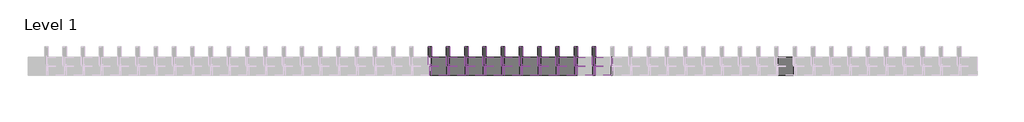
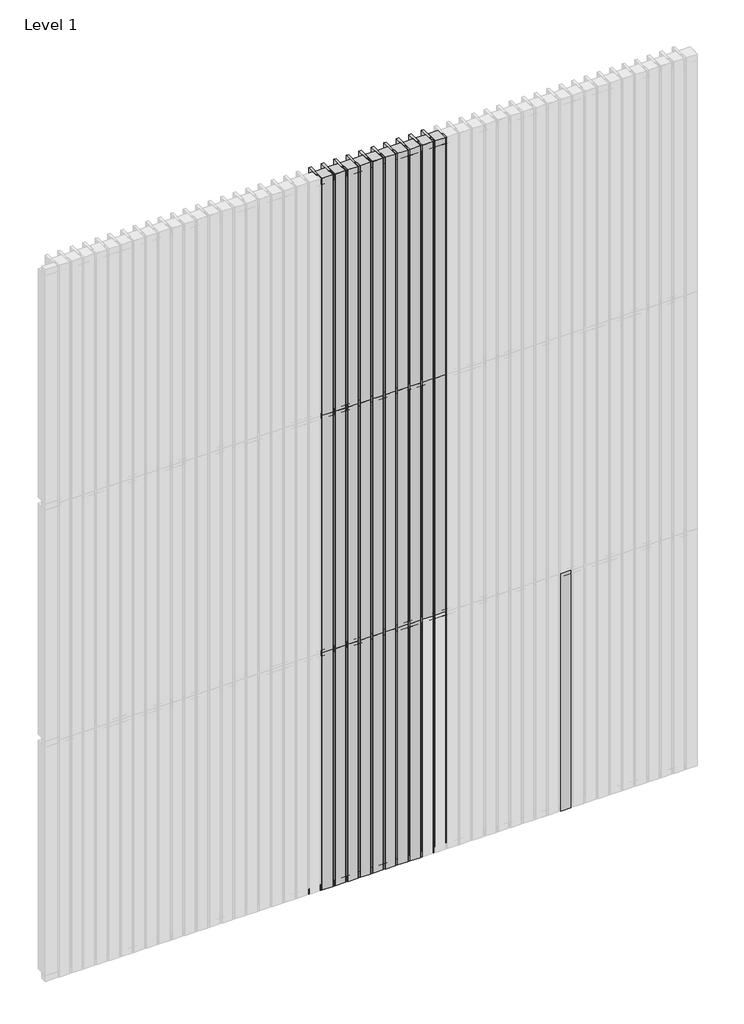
# One storey, part 4 of 6: 70 members, 59 plates.
"""IFC4 building model written with IfcOpenShell, lengths in millimetres."""

from ifc_helpers import new_model, si_unit, origin, place, context, project, spatial, transform, mapped, element, save
from components import rectangular_mullion_cddbc660, rectangular_mullion_a3e25429, rectangular_mullion_ae434dd9, rectangular_mullion_30cdfca6, empty_system_panel_empty_5411477d, empty_system_panel_empty_c50988b4, empty_system_panel_empty_3767e820

model = new_model("IFC4")

# Units and contexts
model_context = context("Model", 3, world=origin())
ifc_project = project(units=[si_unit("LENGTHUNIT", "METRE", prefix="MILLI")], contexts=[model_context])

# Site, building, storey
site = spatial("IfcSite", under=ifc_project)
building = spatial("IfcBuilding", under=site)
storey = spatial("IfcBuildingStorey", under=building, Name="Level 1", Elevation=0.0)

# Members
placement = place(None, origin())
rectangular_mullion_shape = rectangular_mullion_cddbc660(model_context)
element("IfcMember", 1, ObjectType="Rectangular Mullion : RSen_21_CWM_support profile 50x50 - left_gen_duco projects", at=placement, inside=storey, context=model_context, shape_type="MappedRepresentation", body=[
    mapped(rectangular_mullion_shape, transform((3900.0, 3000.0, 6000.0), x_axis=(0.0, 0.0, 1.0), y_axis=(0.0, 1.0, 0.0), z_axis=(-1.0, 0.0, 0.0))),
])
element("IfcMember", 2, ObjectType="Rectangular Mullion : RSen_21_CWM_support profile 50x50 - left_gen_duco projects", at=placement, inside=storey, context=model_context, shape_type="MappedRepresentation", body=[
    mapped(rectangular_mullion_shape, transform((3800.0, 3000.0, 6000.0), x_axis=(0.0, 0.0, 1.0), y_axis=(0.0, 1.0, 0.0), z_axis=(-1.0, 0.0, 0.0))),
])
element("IfcMember", 3, ObjectType="Rectangular Mullion : RSen_21_CWM_support profile 50x50 - left_gen_duco projects", at=placement, inside=storey, context=model_context, shape_type="MappedRepresentation", body=[
    mapped(rectangular_mullion_shape, transform((3700.0, 3000.0, 6000.0), x_axis=(0.0, 0.0, 1.0), y_axis=(0.0, 1.0, 0.0), z_axis=(-1.0, 0.0, 0.0))),
])
element("IfcMember", 4, ObjectType="Rectangular Mullion : RSen_21_CWM_support profile 50x50 - left_gen_duco projects", at=placement, inside=storey, context=model_context, shape_type="MappedRepresentation", body=[
    mapped(rectangular_mullion_shape, transform((3600.0, 3000.0, 6000.0), x_axis=(0.0, 0.0, 1.0), y_axis=(0.0, 1.0, 0.0), z_axis=(-1.0, 0.0, 0.0))),
])
element("IfcMember", 5, ObjectType="Rectangular Mullion : RSen_21_CWM_support profile 50x50 - left_gen_duco projects", at=placement, inside=storey, context=model_context, shape_type="MappedRepresentation", body=[
    mapped(rectangular_mullion_shape, transform((3500.0, 3000.0, 6000.0), x_axis=(0.0, 0.0, 1.0), y_axis=(0.0, 1.0, 0.0), z_axis=(-1.0, 0.0, 0.0))),
])
element("IfcMember", 6, ObjectType="Rectangular Mullion : RSen_21_CWM_support profile 50x50 - left_gen_duco projects", at=placement, inside=storey, context=model_context, shape_type="MappedRepresentation", body=[
    mapped(rectangular_mullion_shape, transform((3400.0, 3000.0, 6000.0), x_axis=(0.0, 0.0, 1.0), y_axis=(0.0, 1.0, 0.0), z_axis=(-1.0, 0.0, 0.0))),
])
element("IfcMember", 7, ObjectType="Rectangular Mullion : RSen_21_CWM_support profile 50x50 - left_gen_duco projects", at=placement, inside=storey, context=model_context, shape_type="MappedRepresentation", body=[
    mapped(rectangular_mullion_shape, transform((3300.0, 3000.0, 6000.0), x_axis=(0.0, 0.0, 1.0), y_axis=(0.0, 1.0, 0.0), z_axis=(-1.0, 0.0, 0.0))),
])
element("IfcMember", 8, ObjectType="Rectangular Mullion : RSen_21_CWM_support profile 50x50 - left_gen_duco projects", at=placement, inside=storey, context=model_context, shape_type="MappedRepresentation", body=[
    mapped(rectangular_mullion_shape, transform((3200.0, 3000.0, 6000.0), x_axis=(0.0, 0.0, 1.0), y_axis=(0.0, 1.0, 0.0), z_axis=(-1.0, 0.0, 0.0))),
])
element("IfcMember", 9, ObjectType="Rectangular Mullion : RSen_21_CWM_support profile 50x50 - left_gen_duco projects", at=placement, inside=storey, context=model_context, shape_type="MappedRepresentation", body=[
    mapped(rectangular_mullion_shape, transform((3100.0, 3000.0, 6000.0), x_axis=(0.0, 0.0, 1.0), y_axis=(0.0, 1.0, 0.0), z_axis=(-1.0, 0.0, 0.0))),
])
element("IfcMember", 10, ObjectType="Rectangular Mullion : RSen_21_CWM_support profile 50x50 - left_gen_duco projects", at=placement, inside=storey, context=model_context, shape_type="MappedRepresentation", body=[
    mapped(rectangular_mullion_shape, transform((3000.0, 3000.0, 6000.0), x_axis=(0.0, 0.0, 1.0), y_axis=(0.0, 1.0, 0.0), z_axis=(-1.0, 0.0, 0.0))),
])
rectangular_mullion_2_shape = rectangular_mullion_a3e25429(model_context)
element("IfcMember", 11, ObjectType="Rectangular Mullion : RSen_21_CWM_support profile 50x50 - right_gen_duco projects", at=placement, inside=storey, context=model_context, shape_type="MappedRepresentation", body=[
    mapped(rectangular_mullion_2_shape, transform((3900.0, 3000.0, 0.0), x_axis=(0.0, 0.0, -1.0), y_axis=(0.0, 1.0, 0.0), z_axis=(1.0, 0.0, 0.0))),
])
element("IfcMember", 12, ObjectType="Rectangular Mullion : RSen_21_CWM_support profile 50x50 - right_gen_duco projects", at=placement, inside=storey, context=model_context, shape_type="MappedRepresentation", body=[
    mapped(rectangular_mullion_2_shape, transform((3800.0, 3000.0, 0.0), x_axis=(0.0, 0.0, -1.0), y_axis=(0.0, 1.0, 0.0), z_axis=(1.0, 0.0, 0.0))),
])
element("IfcMember", 13, ObjectType="Rectangular Mullion : RSen_21_CWM_support profile 50x50 - right_gen_duco projects", at=placement, inside=storey, context=model_context, shape_type="MappedRepresentation", body=[
    mapped(rectangular_mullion_2_shape, transform((3700.0, 3000.0, 0.0), x_axis=(0.0, 0.0, -1.0), y_axis=(0.0, 1.0, 0.0), z_axis=(1.0, 0.0, 0.0))),
])
element("IfcMember", 14, ObjectType="Rectangular Mullion : RSen_21_CWM_support profile 50x50 - right_gen_duco projects", at=placement, inside=storey, context=model_context, shape_type="MappedRepresentation", body=[
    mapped(rectangular_mullion_2_shape, transform((3600.0, 3000.0, 0.0), x_axis=(0.0, 0.0, -1.0), y_axis=(0.0, 1.0, 0.0), z_axis=(1.0, 0.0, 0.0))),
])
element("IfcMember", 15, ObjectType="Rectangular Mullion : RSen_21_CWM_support profile 50x50 - right_gen_duco projects", at=placement, inside=storey, context=model_context, shape_type="MappedRepresentation", body=[
    mapped(rectangular_mullion_2_shape, transform((3500.0, 3000.0, 0.0), x_axis=(0.0, 0.0, -1.0), y_axis=(0.0, 1.0, 0.0), z_axis=(1.0, 0.0, 0.0))),
])
element("IfcMember", 16, ObjectType="Rectangular Mullion : RSen_21_CWM_support profile 50x50 - right_gen_duco projects", at=placement, inside=storey, context=model_context, shape_type="MappedRepresentation", body=[
    mapped(rectangular_mullion_2_shape, transform((3400.0, 3000.0, 0.0), x_axis=(0.0, 0.0, -1.0), y_axis=(0.0, 1.0, 0.0), z_axis=(1.0, 0.0, 0.0))),
])
element("IfcMember", 17, ObjectType="Rectangular Mullion : RSen_21_CWM_support profile 50x50 - right_gen_duco projects", at=placement, inside=storey, context=model_context, shape_type="MappedRepresentation", body=[
    mapped(rectangular_mullion_2_shape, transform((3300.0, 3000.0, 0.0), x_axis=(0.0, 0.0, -1.0), y_axis=(0.0, 1.0, 0.0), z_axis=(1.0, 0.0, 0.0))),
])
element("IfcMember", 18, ObjectType="Rectangular Mullion : RSen_21_CWM_support profile 50x50 - right_gen_duco projects", at=placement, inside=storey, context=model_context, shape_type="MappedRepresentation", body=[
    mapped(rectangular_mullion_2_shape, transform((3200.0, 3000.0, 0.0), x_axis=(0.0, 0.0, -1.0), y_axis=(0.0, 1.0, 0.0), z_axis=(1.0, 0.0, 0.0))),
])
element("IfcMember", 19, ObjectType="Rectangular Mullion : RSen_21_CWM_support profile 50x50 - right_gen_duco projects", at=placement, inside=storey, context=model_context, shape_type="MappedRepresentation", body=[
    mapped(rectangular_mullion_2_shape, transform((3100.0, 3000.0, 0.0), x_axis=(0.0, 0.0, -1.0), y_axis=(0.0, 1.0, 0.0), z_axis=(1.0, 0.0, 0.0))),
])
element("IfcMember", 20, ObjectType="Rectangular Mullion : RSen_21_CWM_support profile 50x50 - right_gen_duco projects", at=placement, inside=storey, context=model_context, shape_type="MappedRepresentation", body=[
    mapped(rectangular_mullion_2_shape, transform((3000.0, 3000.0, 0.0), x_axis=(0.0, 0.0, -1.0), y_axis=(0.0, 1.0, 0.0), z_axis=(1.0, 0.0, 0.0))),
])
rectangular_mullion_3_shape = rectangular_mullion_ae434dd9(model_context)
element("IfcMember", 21, ObjectType="Rectangular Mullion : RSen_21_CWM_support profile 50x50_gen_duco projects", at=placement, inside=storey, context=model_context, shape_type="MappedRepresentation", body=[
    mapped(rectangular_mullion_3_shape, transform((3900.0, 3000.0, 2000.0), x_axis=(0.0, 0.0, 1.0), y_axis=(0.0, 1.0, 0.0), z_axis=(-1.0, 0.0, 0.0))),
])
element("IfcMember", 22, ObjectType="Rectangular Mullion : RSen_21_CWM_support profile 50x50_gen_duco projects", at=placement, inside=storey, context=model_context, shape_type="MappedRepresentation", body=[
    mapped(rectangular_mullion_3_shape, transform((3800.0, 3000.0, 2000.0), x_axis=(0.0, 0.0, 1.0), y_axis=(0.0, 1.0, 0.0), z_axis=(-1.0, 0.0, 0.0))),
])
element("IfcMember", 23, ObjectType="Rectangular Mullion : RSen_21_CWM_support profile 50x50_gen_duco projects", at=placement, inside=storey, context=model_context, shape_type="MappedRepresentation", body=[
    mapped(rectangular_mullion_3_shape, transform((3700.0, 3000.0, 2000.0), x_axis=(0.0, 0.0, 1.0), y_axis=(0.0, 1.0, 0.0), z_axis=(-1.0, 0.0, 0.0))),
])
element("IfcMember", 24, ObjectType="Rectangular Mullion : RSen_21_CWM_support profile 50x50_gen_duco projects", at=placement, inside=storey, context=model_context, shape_type="MappedRepresentation", body=[
    mapped(rectangular_mullion_3_shape, transform((3600.0, 3000.0, 2000.0), x_axis=(0.0, 0.0, 1.0), y_axis=(0.0, 1.0, 0.0), z_axis=(-1.0, 0.0, 0.0))),
])
element("IfcMember", 25, ObjectType="Rectangular Mullion : RSen_21_CWM_support profile 50x50_gen_duco projects", at=placement, inside=storey, context=model_context, shape_type="MappedRepresentation", body=[
    mapped(rectangular_mullion_3_shape, transform((3500.0, 3000.0, 2000.0), x_axis=(0.0, 0.0, 1.0), y_axis=(0.0, 1.0, 0.0), z_axis=(-1.0, 0.0, 0.0))),
])
element("IfcMember", 26, ObjectType="Rectangular Mullion : RSen_21_CWM_support profile 50x50_gen_duco projects", at=placement, inside=storey, context=model_context, shape_type="MappedRepresentation", body=[
    mapped(rectangular_mullion_3_shape, transform((3400.0, 3000.0, 2000.0), x_axis=(0.0, 0.0, 1.0), y_axis=(0.0, 1.0, 0.0), z_axis=(-1.0, 0.0, 0.0))),
])
element("IfcMember", 27, ObjectType="Rectangular Mullion : RSen_21_CWM_support profile 50x50_gen_duco projects", at=placement, inside=storey, context=model_context, shape_type="MappedRepresentation", body=[
    mapped(rectangular_mullion_3_shape, transform((3300.0, 3000.0, 2000.0), x_axis=(0.0, 0.0, 1.0), y_axis=(0.0, 1.0, 0.0), z_axis=(-1.0, 0.0, 0.0))),
])
element("IfcMember", 28, ObjectType="Rectangular Mullion : RSen_21_CWM_support profile 50x50_gen_duco projects", at=placement, inside=storey, context=model_context, shape_type="MappedRepresentation", body=[
    mapped(rectangular_mullion_3_shape, transform((3200.0, 3000.0, 2000.0), x_axis=(0.0, 0.0, 1.0), y_axis=(0.0, 1.0, 0.0), z_axis=(-1.0, 0.0, 0.0))),
])
element("IfcMember", 29, ObjectType="Rectangular Mullion : RSen_21_CWM_support profile 50x50_gen_duco projects", at=placement, inside=storey, context=model_context, shape_type="MappedRepresentation", body=[
    mapped(rectangular_mullion_3_shape, transform((3100.0, 3000.0, 2000.0), x_axis=(0.0, 0.0, 1.0), y_axis=(0.0, 1.0, 0.0), z_axis=(-1.0, 0.0, 0.0))),
])
element("IfcMember", 30, ObjectType="Rectangular Mullion : RSen_21_CWM_support profile 50x50_gen_duco projects", at=placement, inside=storey, context=model_context, shape_type="MappedRepresentation", body=[
    mapped(rectangular_mullion_3_shape, transform((3000.0, 3000.0, 2000.0), x_axis=(0.0, 0.0, 1.0), y_axis=(0.0, 1.0, 0.0), z_axis=(-1.0, 0.0, 0.0))),
])
element("IfcMember", 31, ObjectType="Rectangular Mullion : RSen_21_CWM_support profile 50x50_gen_duco projects", at=placement, inside=storey, context=model_context, shape_type="MappedRepresentation", body=[
    mapped(rectangular_mullion_3_shape, transform((3900.0, 3000.0, 4000.0), x_axis=(0.0, 0.0, 1.0), y_axis=(0.0, 1.0, 0.0), z_axis=(-1.0, 0.0, 0.0))),
])
element("IfcMember", 32, ObjectType="Rectangular Mullion : RSen_21_CWM_support profile 50x50_gen_duco projects", at=placement, inside=storey, context=model_context, shape_type="MappedRepresentation", body=[
    mapped(rectangular_mullion_3_shape, transform((3800.0, 3000.0, 4000.0), x_axis=(0.0, 0.0, 1.0), y_axis=(0.0, 1.0, 0.0), z_axis=(-1.0, 0.0, 0.0))),
])
element("IfcMember", 33, ObjectType="Rectangular Mullion : RSen_21_CWM_support profile 50x50_gen_duco projects", at=placement, inside=storey, context=model_context, shape_type="MappedRepresentation", body=[
    mapped(rectangular_mullion_3_shape, transform((3700.0, 3000.0, 4000.0), x_axis=(0.0, 0.0, 1.0), y_axis=(0.0, 1.0, 0.0), z_axis=(-1.0, 0.0, 0.0))),
])
element("IfcMember", 34, ObjectType="Rectangular Mullion : RSen_21_CWM_support profile 50x50_gen_duco projects", at=placement, inside=storey, context=model_context, shape_type="MappedRepresentation", body=[
    mapped(rectangular_mullion_3_shape, transform((3600.0, 3000.0, 4000.0), x_axis=(0.0, 0.0, 1.0), y_axis=(0.0, 1.0, 0.0), z_axis=(-1.0, 0.0, 0.0))),
])
element("IfcMember", 35, ObjectType="Rectangular Mullion : RSen_21_CWM_support profile 50x50_gen_duco projects", at=placement, inside=storey, context=model_context, shape_type="MappedRepresentation", body=[
    mapped(rectangular_mullion_3_shape, transform((3500.0, 3000.0, 4000.0), x_axis=(0.0, 0.0, 1.0), y_axis=(0.0, 1.0, 0.0), z_axis=(-1.0, 0.0, 0.0))),
])
element("IfcMember", 36, ObjectType="Rectangular Mullion : RSen_21_CWM_support profile 50x50_gen_duco projects", at=placement, inside=storey, context=model_context, shape_type="MappedRepresentation", body=[
    mapped(rectangular_mullion_3_shape, transform((3400.0, 3000.0, 4000.0), x_axis=(0.0, 0.0, 1.0), y_axis=(0.0, 1.0, 0.0), z_axis=(-1.0, 0.0, 0.0))),
])
element("IfcMember", 37, ObjectType="Rectangular Mullion : RSen_21_CWM_support profile 50x50_gen_duco projects", at=placement, inside=storey, context=model_context, shape_type="MappedRepresentation", body=[
    mapped(rectangular_mullion_3_shape, transform((3300.0, 3000.0, 4000.0), x_axis=(0.0, 0.0, 1.0), y_axis=(0.0, 1.0, 0.0), z_axis=(-1.0, 0.0, 0.0))),
])
element("IfcMember", 38, ObjectType="Rectangular Mullion : RSen_21_CWM_support profile 50x50_gen_duco projects", at=placement, inside=storey, context=model_context, shape_type="MappedRepresentation", body=[
    mapped(rectangular_mullion_3_shape, transform((3200.0, 3000.0, 4000.0), x_axis=(0.0, 0.0, 1.0), y_axis=(0.0, 1.0, 0.0), z_axis=(-1.0, 0.0, 0.0))),
])
element("IfcMember", 39, ObjectType="Rectangular Mullion : RSen_21_CWM_support profile 50x50_gen_duco projects", at=placement, inside=storey, context=model_context, shape_type="MappedRepresentation", body=[
    mapped(rectangular_mullion_3_shape, transform((3100.0, 3000.0, 4000.0), x_axis=(0.0, 0.0, 1.0), y_axis=(0.0, 1.0, 0.0), z_axis=(-1.0, 0.0, 0.0))),
])
element("IfcMember", 40, ObjectType="Rectangular Mullion : RSen_21_CWM_support profile 50x50_gen_duco projects", at=placement, inside=storey, context=model_context, shape_type="MappedRepresentation", body=[
    mapped(rectangular_mullion_3_shape, transform((3000.0, 3000.0, 4000.0), x_axis=(0.0, 0.0, 1.0), y_axis=(0.0, 1.0, 0.0), z_axis=(-1.0, 0.0, 0.0))),
])
rectangular_mullion_4_shape = rectangular_mullion_30cdfca6(model_context)
element("IfcMember", 41, ObjectType="Rectangular Mullion : RSen_21_CWM_blade - cubic 100 - 0°_gen_duco projects", at=placement, inside=storey, context=model_context, shape_type="MappedRepresentation", body=[
    mapped(rectangular_mullion_4_shape, transform((3900.0, 3000.0, 0.0), x_axis=(-1.0, 0.0, 0.0), y_axis=(0.0, 1.0, 0.0), z_axis=(0.0, 0.0, -1.0))),
])
element("IfcMember", 42, ObjectType="Rectangular Mullion : RSen_21_CWM_blade - cubic 100 - 0°_gen_duco projects", at=placement, inside=storey, context=model_context, shape_type="MappedRepresentation", body=[
    mapped(rectangular_mullion_4_shape, transform((3800.0, 3000.0, 0.0), x_axis=(-1.0, 0.0, 0.0), y_axis=(0.0, 1.0, 0.0), z_axis=(0.0, 0.0, -1.0))),
])
element("IfcMember", 43, ObjectType="Rectangular Mullion : RSen_21_CWM_blade - cubic 100 - 0°_gen_duco projects", at=placement, inside=storey, context=model_context, shape_type="MappedRepresentation", body=[
    mapped(rectangular_mullion_4_shape, transform((3700.0, 3000.0, 0.0), x_axis=(-1.0, 0.0, 0.0), y_axis=(0.0, 1.0, 0.0), z_axis=(0.0, 0.0, -1.0))),
])
element("IfcMember", 44, ObjectType="Rectangular Mullion : RSen_21_CWM_blade - cubic 100 - 0°_gen_duco projects", at=placement, inside=storey, context=model_context, shape_type="MappedRepresentation", body=[
    mapped(rectangular_mullion_4_shape, transform((3600.0, 3000.0, 0.0), x_axis=(-1.0, 0.0, 0.0), y_axis=(0.0, 1.0, 0.0), z_axis=(0.0, 0.0, -1.0))),
])
element("IfcMember", 45, ObjectType="Rectangular Mullion : RSen_21_CWM_blade - cubic 100 - 0°_gen_duco projects", at=placement, inside=storey, context=model_context, shape_type="MappedRepresentation", body=[
    mapped(rectangular_mullion_4_shape, transform((3500.0, 3000.0, 0.0), x_axis=(-1.0, 0.0, 0.0), y_axis=(0.0, 1.0, 0.0), z_axis=(0.0, 0.0, -1.0))),
])
element("IfcMember", 46, ObjectType="Rectangular Mullion : RSen_21_CWM_blade - cubic 100 - 0°_gen_duco projects", at=placement, inside=storey, context=model_context, shape_type="MappedRepresentation", body=[
    mapped(rectangular_mullion_4_shape, transform((3400.0, 3000.0, 0.0), x_axis=(-1.0, 0.0, 0.0), y_axis=(0.0, 1.0, 0.0), z_axis=(0.0, 0.0, -1.0))),
])
element("IfcMember", 47, ObjectType="Rectangular Mullion : RSen_21_CWM_blade - cubic 100 - 0°_gen_duco projects", at=placement, inside=storey, context=model_context, shape_type="MappedRepresentation", body=[
    mapped(rectangular_mullion_4_shape, transform((3300.0, 3000.0, 0.0), x_axis=(-1.0, 0.0, 0.0), y_axis=(0.0, 1.0, 0.0), z_axis=(0.0, 0.0, -1.0))),
])
element("IfcMember", 48, ObjectType="Rectangular Mullion : RSen_21_CWM_blade - cubic 100 - 0°_gen_duco projects", at=placement, inside=storey, context=model_context, shape_type="MappedRepresentation", body=[
    mapped(rectangular_mullion_4_shape, transform((3200.0, 3000.0, 0.0), x_axis=(-1.0, 0.0, 0.0), y_axis=(0.0, 1.0, 0.0), z_axis=(0.0, 0.0, -1.0))),
])
element("IfcMember", 49, ObjectType="Rectangular Mullion : RSen_21_CWM_blade - cubic 100 - 0°_gen_duco projects", at=placement, inside=storey, context=model_context, shape_type="MappedRepresentation", body=[
    mapped(rectangular_mullion_4_shape, transform((3100.0, 3000.0, 0.0), x_axis=(-1.0, 0.0, 0.0), y_axis=(0.0, 1.0, 0.0), z_axis=(0.0, 0.0, -1.0))),
])
element("IfcMember", 50, ObjectType="Rectangular Mullion : RSen_21_CWM_blade - cubic 100 - 0°_gen_duco projects", at=placement, inside=storey, context=model_context, shape_type="MappedRepresentation", body=[
    mapped(rectangular_mullion_4_shape, transform((3000.0, 3000.0, 0.0), x_axis=(-1.0, 0.0, 0.0), y_axis=(0.0, 1.0, 0.0), z_axis=(0.0, 0.0, -1.0))),
])
element("IfcMember", 51, ObjectType="Rectangular Mullion : RSen_21_CWM_blade - cubic 100 - 0°_gen_duco projects", at=placement, inside=storey, context=model_context, shape_type="MappedRepresentation", body=[
    mapped(rectangular_mullion_4_shape, transform((3900.0, 3000.0, 2000.0), x_axis=(-1.0, 0.0, 0.0), y_axis=(0.0, 1.0, 0.0), z_axis=(0.0, 0.0, -1.0))),
])
element("IfcMember", 52, ObjectType="Rectangular Mullion : RSen_21_CWM_blade - cubic 100 - 0°_gen_duco projects", at=placement, inside=storey, context=model_context, shape_type="MappedRepresentation", body=[
    mapped(rectangular_mullion_4_shape, transform((3800.0, 3000.0, 2000.0), x_axis=(-1.0, 0.0, 0.0), y_axis=(0.0, 1.0, 0.0), z_axis=(0.0, 0.0, -1.0))),
])
element("IfcMember", 53, ObjectType="Rectangular Mullion : RSen_21_CWM_blade - cubic 100 - 0°_gen_duco projects", at=placement, inside=storey, context=model_context, shape_type="MappedRepresentation", body=[
    mapped(rectangular_mullion_4_shape, transform((3700.0, 3000.0, 2000.0), x_axis=(-1.0, 0.0, 0.0), y_axis=(0.0, 1.0, 0.0), z_axis=(0.0, 0.0, -1.0))),
])
element("IfcMember", 54, ObjectType="Rectangular Mullion : RSen_21_CWM_blade - cubic 100 - 0°_gen_duco projects", at=placement, inside=storey, context=model_context, shape_type="MappedRepresentation", body=[
    mapped(rectangular_mullion_4_shape, transform((3600.0, 3000.0, 2000.0), x_axis=(-1.0, 0.0, 0.0), y_axis=(0.0, 1.0, 0.0), z_axis=(0.0, 0.0, -1.0))),
])
element("IfcMember", 55, ObjectType="Rectangular Mullion : RSen_21_CWM_blade - cubic 100 - 0°_gen_duco projects", at=placement, inside=storey, context=model_context, shape_type="MappedRepresentation", body=[
    mapped(rectangular_mullion_4_shape, transform((3500.0, 3000.0, 2000.0), x_axis=(-1.0, 0.0, 0.0), y_axis=(0.0, 1.0, 0.0), z_axis=(0.0, 0.0, -1.0))),
])
element("IfcMember", 56, ObjectType="Rectangular Mullion : RSen_21_CWM_blade - cubic 100 - 0°_gen_duco projects", at=placement, inside=storey, context=model_context, shape_type="MappedRepresentation", body=[
    mapped(rectangular_mullion_4_shape, transform((3400.0, 3000.0, 2000.0), x_axis=(-1.0, 0.0, 0.0), y_axis=(0.0, 1.0, 0.0), z_axis=(0.0, 0.0, -1.0))),
])
element("IfcMember", 57, ObjectType="Rectangular Mullion : RSen_21_CWM_blade - cubic 100 - 0°_gen_duco projects", at=placement, inside=storey, context=model_context, shape_type="MappedRepresentation", body=[
    mapped(rectangular_mullion_4_shape, transform((3300.0, 3000.0, 2000.0), x_axis=(-1.0, 0.0, 0.0), y_axis=(0.0, 1.0, 0.0), z_axis=(0.0, 0.0, -1.0))),
])
element("IfcMember", 58, ObjectType="Rectangular Mullion : RSen_21_CWM_blade - cubic 100 - 0°_gen_duco projects", at=placement, inside=storey, context=model_context, shape_type="MappedRepresentation", body=[
    mapped(rectangular_mullion_4_shape, transform((3200.0, 3000.0, 2000.0), x_axis=(-1.0, 0.0, 0.0), y_axis=(0.0, 1.0, 0.0), z_axis=(0.0, 0.0, -1.0))),
])
element("IfcMember", 59, ObjectType="Rectangular Mullion : RSen_21_CWM_blade - cubic 100 - 0°_gen_duco projects", at=placement, inside=storey, context=model_context, shape_type="MappedRepresentation", body=[
    mapped(rectangular_mullion_4_shape, transform((3100.0, 3000.0, 2000.0), x_axis=(-1.0, 0.0, 0.0), y_axis=(0.0, 1.0, 0.0), z_axis=(0.0, 0.0, -1.0))),
])
element("IfcMember", 60, ObjectType="Rectangular Mullion : RSen_21_CWM_blade - cubic 100 - 0°_gen_duco projects", at=placement, inside=storey, context=model_context, shape_type="MappedRepresentation", body=[
    mapped(rectangular_mullion_4_shape, transform((3000.0, 3000.0, 2000.0), x_axis=(-1.0, 0.0, 0.0), y_axis=(0.0, 1.0, 0.0), z_axis=(0.0, 0.0, -1.0))),
])
element("IfcMember", 61, ObjectType="Rectangular Mullion : RSen_21_CWM_blade - cubic 100 - 0°_gen_duco projects", at=placement, inside=storey, context=model_context, shape_type="MappedRepresentation", body=[
    mapped(rectangular_mullion_4_shape, transform((3900.0, 3000.0, 4000.0), x_axis=(-1.0, 0.0, 0.0), y_axis=(0.0, 1.0, 0.0), z_axis=(0.0, 0.0, -1.0))),
])
element("IfcMember", 62, ObjectType="Rectangular Mullion : RSen_21_CWM_blade - cubic 100 - 0°_gen_duco projects", at=placement, inside=storey, context=model_context, shape_type="MappedRepresentation", body=[
    mapped(rectangular_mullion_4_shape, transform((3800.0, 3000.0, 4000.0), x_axis=(-1.0, 0.0, 0.0), y_axis=(0.0, 1.0, 0.0), z_axis=(0.0, 0.0, -1.0))),
])
element("IfcMember", 63, ObjectType="Rectangular Mullion : RSen_21_CWM_blade - cubic 100 - 0°_gen_duco projects", at=placement, inside=storey, context=model_context, shape_type="MappedRepresentation", body=[
    mapped(rectangular_mullion_4_shape, transform((3700.0, 3000.0, 4000.0), x_axis=(-1.0, 0.0, 0.0), y_axis=(0.0, 1.0, 0.0), z_axis=(0.0, 0.0, -1.0))),
])
element("IfcMember", 64, ObjectType="Rectangular Mullion : RSen_21_CWM_blade - cubic 100 - 0°_gen_duco projects", at=placement, inside=storey, context=model_context, shape_type="MappedRepresentation", body=[
    mapped(rectangular_mullion_4_shape, transform((3600.0, 3000.0, 4000.0), x_axis=(-1.0, 0.0, 0.0), y_axis=(0.0, 1.0, 0.0), z_axis=(0.0, 0.0, -1.0))),
])
element("IfcMember", 65, ObjectType="Rectangular Mullion : RSen_21_CWM_blade - cubic 100 - 0°_gen_duco projects", at=placement, inside=storey, context=model_context, shape_type="MappedRepresentation", body=[
    mapped(rectangular_mullion_4_shape, transform((3500.0, 3000.0, 4000.0), x_axis=(-1.0, 0.0, 0.0), y_axis=(0.0, 1.0, 0.0), z_axis=(0.0, 0.0, -1.0))),
])
element("IfcMember", 66, ObjectType="Rectangular Mullion : RSen_21_CWM_blade - cubic 100 - 0°_gen_duco projects", at=placement, inside=storey, context=model_context, shape_type="MappedRepresentation", body=[
    mapped(rectangular_mullion_4_shape, transform((3400.0, 3000.0, 4000.0), x_axis=(-1.0, 0.0, 0.0), y_axis=(0.0, 1.0, 0.0), z_axis=(0.0, 0.0, -1.0))),
])
element("IfcMember", 67, ObjectType="Rectangular Mullion : RSen_21_CWM_blade - cubic 100 - 0°_gen_duco projects", at=placement, inside=storey, context=model_context, shape_type="MappedRepresentation", body=[
    mapped(rectangular_mullion_4_shape, transform((3300.0, 3000.0, 4000.0), x_axis=(-1.0, 0.0, 0.0), y_axis=(0.0, 1.0, 0.0), z_axis=(0.0, 0.0, -1.0))),
])
element("IfcMember", 68, ObjectType="Rectangular Mullion : RSen_21_CWM_blade - cubic 100 - 0°_gen_duco projects", at=placement, inside=storey, context=model_context, shape_type="MappedRepresentation", body=[
    mapped(rectangular_mullion_4_shape, transform((3200.0, 3000.0, 4000.0), x_axis=(-1.0, 0.0, 0.0), y_axis=(0.0, 1.0, 0.0), z_axis=(0.0, 0.0, -1.0))),
])
element("IfcMember", 69, ObjectType="Rectangular Mullion : RSen_21_CWM_blade - cubic 100 - 0°_gen_duco projects", at=placement, inside=storey, context=model_context, shape_type="MappedRepresentation", body=[
    mapped(rectangular_mullion_4_shape, transform((3100.0, 3000.0, 4000.0), x_axis=(-1.0, 0.0, 0.0), y_axis=(0.0, 1.0, 0.0), z_axis=(0.0, 0.0, -1.0))),
])
element("IfcMember", 70, ObjectType="Rectangular Mullion : RSen_21_CWM_blade - cubic 100 - 0°_gen_duco projects", at=placement, inside=storey, context=model_context, shape_type="MappedRepresentation", body=[
    mapped(rectangular_mullion_4_shape, transform((3000.0, 3000.0, 4000.0), x_axis=(-1.0, 0.0, 0.0), y_axis=(0.0, 1.0, 0.0), z_axis=(0.0, 0.0, -1.0))),
])

# Plates
empty_system_panel_empty_shape = empty_system_panel_empty_5411477d(model_context)
element("IfcPlate", 71, ObjectType="Empty System Panel : Empty", at=placement, inside=storey, context=model_context, shape_type="MappedRepresentation", body=[
    mapped(empty_system_panel_empty_shape, transform((3950.0, 3000.0, 50.0), x_axis=(-1.0, 0.0, 0.0), y_axis=(0.0, -1.0, 0.0), z_axis=(0.0, 0.0, 1.0))),
])
element("IfcPlate", 72, ObjectType="Empty System Panel : Empty", at=placement, inside=storey, context=model_context, shape_type="MappedRepresentation", body=[
    mapped(empty_system_panel_empty_shape, transform((3850.0, 3000.0, 50.0), x_axis=(-1.0, 0.0, 0.0), y_axis=(0.0, -1.0, 0.0), z_axis=(0.0, 0.0, 1.0))),
])
element("IfcPlate", 73, ObjectType="Empty System Panel : Empty", at=placement, inside=storey, context=model_context, shape_type="MappedRepresentation", body=[
    mapped(empty_system_panel_empty_shape, transform((3750.0, 3000.0, 50.0), x_axis=(-1.0, 0.0, 0.0), y_axis=(0.0, -1.0, 0.0), z_axis=(0.0, 0.0, 1.0))),
])
element("IfcPlate", 74, ObjectType="Empty System Panel : Empty", at=placement, inside=storey, context=model_context, shape_type="MappedRepresentation", body=[
    mapped(empty_system_panel_empty_shape, transform((3650.0, 3000.0, 50.0), x_axis=(-1.0, 0.0, 0.0), y_axis=(0.0, -1.0, 0.0), z_axis=(0.0, 0.0, 1.0))),
])
element("IfcPlate", 75, ObjectType="Empty System Panel : Empty", at=placement, inside=storey, context=model_context, shape_type="MappedRepresentation", body=[
    mapped(empty_system_panel_empty_shape, transform((3550.0, 3000.0, 50.0), x_axis=(-1.0, 0.0, 0.0), y_axis=(0.0, -1.0, 0.0), z_axis=(0.0, 0.0, 1.0))),
])
element("IfcPlate", 76, ObjectType="Empty System Panel : Empty", at=placement, inside=storey, context=model_context, shape_type="MappedRepresentation", body=[
    mapped(empty_system_panel_empty_shape, transform((3450.0, 3000.0, 50.0), x_axis=(-1.0, 0.0, 0.0), y_axis=(0.0, -1.0, 0.0), z_axis=(0.0, 0.0, 1.0))),
])
element("IfcPlate", 77, ObjectType="Empty System Panel : Empty", at=placement, inside=storey, context=model_context, shape_type="MappedRepresentation", body=[
    mapped(empty_system_panel_empty_shape, transform((3350.0, 3000.0, 50.0), x_axis=(-1.0, 0.0, 0.0), y_axis=(0.0, -1.0, 0.0), z_axis=(0.0, 0.0, 1.0))),
])
element("IfcPlate", 78, ObjectType="Empty System Panel : Empty", at=placement, inside=storey, context=model_context, shape_type="MappedRepresentation", body=[
    mapped(empty_system_panel_empty_shape, transform((3250.0, 3000.0, 50.0), x_axis=(-1.0, 0.0, 0.0), y_axis=(0.0, -1.0, 0.0), z_axis=(0.0, 0.0, 1.0))),
])
element("IfcPlate", 79, ObjectType="Empty System Panel : Empty", at=placement, inside=storey, context=model_context, shape_type="MappedRepresentation", body=[
    mapped(empty_system_panel_empty_shape, transform((3150.0, 3000.0, 50.0), x_axis=(-1.0, 0.0, 0.0), y_axis=(0.0, -1.0, 0.0), z_axis=(0.0, 0.0, 1.0))),
])
element("IfcPlate", 80, ObjectType="Empty System Panel : Empty", at=placement, inside=storey, context=model_context, shape_type="MappedRepresentation", body=[
    mapped(empty_system_panel_empty_shape, transform((3050.0, 3000.0, 50.0), x_axis=(-1.0, 0.0, 0.0), y_axis=(0.0, -1.0, 0.0), z_axis=(0.0, 0.0, 1.0))),
])
element("IfcPlate", 81, ObjectType="Empty System Panel : Empty", at=placement, inside=storey, context=model_context, shape_type="MappedRepresentation", body=[
    mapped(empty_system_panel_empty_shape, transform((3950.0, 3000.0, 4025.0), x_axis=(-1.0, 0.0, 0.0), y_axis=(0.0, -1.0, 0.0), z_axis=(0.0, 0.0, 1.0))),
])
element("IfcPlate", 82, ObjectType="Empty System Panel : Empty", at=placement, inside=storey, context=model_context, shape_type="MappedRepresentation", body=[
    mapped(empty_system_panel_empty_shape, transform((3850.0, 3000.0, 4025.0), x_axis=(-1.0, 0.0, 0.0), y_axis=(0.0, -1.0, 0.0), z_axis=(0.0, 0.0, 1.0))),
])
element("IfcPlate", 83, ObjectType="Empty System Panel : Empty", at=placement, inside=storey, context=model_context, shape_type="MappedRepresentation", body=[
    mapped(empty_system_panel_empty_shape, transform((3750.0, 3000.0, 4025.0), x_axis=(-1.0, 0.0, 0.0), y_axis=(0.0, -1.0, 0.0), z_axis=(0.0, 0.0, 1.0))),
])
element("IfcPlate", 84, ObjectType="Empty System Panel : Empty", at=placement, inside=storey, context=model_context, shape_type="MappedRepresentation", body=[
    mapped(empty_system_panel_empty_shape, transform((3650.0, 3000.0, 4025.0), x_axis=(-1.0, 0.0, 0.0), y_axis=(0.0, -1.0, 0.0), z_axis=(0.0, 0.0, 1.0))),
])
element("IfcPlate", 85, ObjectType="Empty System Panel : Empty", at=placement, inside=storey, context=model_context, shape_type="MappedRepresentation", body=[
    mapped(empty_system_panel_empty_shape, transform((3550.0, 3000.0, 4025.0), x_axis=(-1.0, 0.0, 0.0), y_axis=(0.0, -1.0, 0.0), z_axis=(0.0, 0.0, 1.0))),
])
element("IfcPlate", 86, ObjectType="Empty System Panel : Empty", at=placement, inside=storey, context=model_context, shape_type="MappedRepresentation", body=[
    mapped(empty_system_panel_empty_shape, transform((3450.0, 3000.0, 4025.0), x_axis=(-1.0, 0.0, 0.0), y_axis=(0.0, -1.0, 0.0), z_axis=(0.0, 0.0, 1.0))),
])
element("IfcPlate", 87, ObjectType="Empty System Panel : Empty", at=placement, inside=storey, context=model_context, shape_type="MappedRepresentation", body=[
    mapped(empty_system_panel_empty_shape, transform((3350.0, 3000.0, 4025.0), x_axis=(-1.0, 0.0, 0.0), y_axis=(0.0, -1.0, 0.0), z_axis=(0.0, 0.0, 1.0))),
])
element("IfcPlate", 88, ObjectType="Empty System Panel : Empty", at=placement, inside=storey, context=model_context, shape_type="MappedRepresentation", body=[
    mapped(empty_system_panel_empty_shape, transform((3250.0, 3000.0, 4025.0), x_axis=(-1.0, 0.0, 0.0), y_axis=(0.0, -1.0, 0.0), z_axis=(0.0, 0.0, 1.0))),
])
element("IfcPlate", 89, ObjectType="Empty System Panel : Empty", at=placement, inside=storey, context=model_context, shape_type="MappedRepresentation", body=[
    mapped(empty_system_panel_empty_shape, transform((3150.0, 3000.0, 4025.0), x_axis=(-1.0, 0.0, 0.0), y_axis=(0.0, -1.0, 0.0), z_axis=(0.0, 0.0, 1.0))),
])
element("IfcPlate", 90, ObjectType="Empty System Panel : Empty", at=placement, inside=storey, context=model_context, shape_type="MappedRepresentation", body=[
    mapped(empty_system_panel_empty_shape, transform((3050.0, 3000.0, 4025.0), x_axis=(-1.0, 0.0, 0.0), y_axis=(0.0, -1.0, 0.0), z_axis=(0.0, 0.0, 1.0))),
])
empty_system_panel_empty_2_shape = empty_system_panel_empty_c50988b4(model_context)
element("IfcPlate", 91, ObjectType="Empty System Panel : Empty", at=placement, inside=storey, context=model_context, shape_type="MappedRepresentation", body=[
    mapped(empty_system_panel_empty_2_shape, transform((3950.0, 3000.0, 2025.0), x_axis=(-1.0, 0.0, 0.0), y_axis=(0.0, -1.0, 0.0), z_axis=(0.0, 0.0, 1.0))),
])
element("IfcPlate", 92, ObjectType="Empty System Panel : Empty", at=placement, inside=storey, context=model_context, shape_type="MappedRepresentation", body=[
    mapped(empty_system_panel_empty_2_shape, transform((3850.0, 3000.0, 2025.0), x_axis=(-1.0, 0.0, 0.0), y_axis=(0.0, -1.0, 0.0), z_axis=(0.0, 0.0, 1.0))),
])
element("IfcPlate", 93, ObjectType="Empty System Panel : Empty", at=placement, inside=storey, context=model_context, shape_type="MappedRepresentation", body=[
    mapped(empty_system_panel_empty_2_shape, transform((3750.0, 3000.0, 2025.0), x_axis=(-1.0, 0.0, 0.0), y_axis=(0.0, -1.0, 0.0), z_axis=(0.0, 0.0, 1.0))),
])
element("IfcPlate", 94, ObjectType="Empty System Panel : Empty", at=placement, inside=storey, context=model_context, shape_type="MappedRepresentation", body=[
    mapped(empty_system_panel_empty_2_shape, transform((3650.0, 3000.0, 2025.0), x_axis=(-1.0, 0.0, 0.0), y_axis=(0.0, -1.0, 0.0), z_axis=(0.0, 0.0, 1.0))),
])
element("IfcPlate", 95, ObjectType="Empty System Panel : Empty", at=placement, inside=storey, context=model_context, shape_type="MappedRepresentation", body=[
    mapped(empty_system_panel_empty_2_shape, transform((3550.0, 3000.0, 2025.0), x_axis=(-1.0, 0.0, 0.0), y_axis=(0.0, -1.0, 0.0), z_axis=(0.0, 0.0, 1.0))),
])
element("IfcPlate", 96, ObjectType="Empty System Panel : Empty", at=placement, inside=storey, context=model_context, shape_type="MappedRepresentation", body=[
    mapped(empty_system_panel_empty_2_shape, transform((3450.0, 3000.0, 2025.0), x_axis=(-1.0, 0.0, 0.0), y_axis=(0.0, -1.0, 0.0), z_axis=(0.0, 0.0, 1.0))),
])
element("IfcPlate", 97, ObjectType="Empty System Panel : Empty", at=placement, inside=storey, context=model_context, shape_type="MappedRepresentation", body=[
    mapped(empty_system_panel_empty_2_shape, transform((3350.0, 3000.0, 2025.0), x_axis=(-1.0, 0.0, 0.0), y_axis=(0.0, -1.0, 0.0), z_axis=(0.0, 0.0, 1.0))),
])
element("IfcPlate", 98, ObjectType="Empty System Panel : Empty", at=placement, inside=storey, context=model_context, shape_type="MappedRepresentation", body=[
    mapped(empty_system_panel_empty_2_shape, transform((3250.0, 3000.0, 2025.0), x_axis=(-1.0, 0.0, 0.0), y_axis=(0.0, -1.0, 0.0), z_axis=(0.0, 0.0, 1.0))),
])
element("IfcPlate", 99, ObjectType="Empty System Panel : Empty", at=placement, inside=storey, context=model_context, shape_type="MappedRepresentation", body=[
    mapped(empty_system_panel_empty_2_shape, transform((3150.0, 3000.0, 2025.0), x_axis=(-1.0, 0.0, 0.0), y_axis=(0.0, -1.0, 0.0), z_axis=(0.0, 0.0, 1.0))),
])
element("IfcPlate", 100, ObjectType="Empty System Panel : Empty", at=placement, inside=storey, context=model_context, shape_type="MappedRepresentation", body=[
    mapped(empty_system_panel_empty_2_shape, transform((3050.0, 3000.0, 2025.0), x_axis=(-1.0, 0.0, 0.0), y_axis=(0.0, -1.0, 0.0), z_axis=(0.0, 0.0, 1.0))),
])
empty_system_panel_empty_3_shape = empty_system_panel_empty_3767e820(model_context)
element("IfcPlate", 101, ObjectType="Empty System Panel : Empty", at=placement, inside=storey, context=model_context, shape_type="MappedRepresentation", body=[
    mapped(empty_system_panel_empty_3_shape, transform((4950.0, 3000.0, 0.0), x_axis=(-1.0, 0.0, 0.0), y_axis=(0.0, -1.0, 0.0), z_axis=(0.0, 0.0, 1.0))),
])
element("IfcPlate", 102, ObjectType="Empty System Panel : Empty", at=placement, inside=storey, context=model_context, shape_type="MappedRepresentation", body=[
    mapped(empty_system_panel_empty_3_shape, transform((3750.0, 3000.0, 0.0), x_axis=(-1.0, 0.0, 0.0), y_axis=(0.0, -1.0, 0.0), z_axis=(0.0, 0.0, 1.0))),
])
element("IfcPlate", 103, ObjectType="Empty System Panel : Empty", at=placement, inside=storey, context=model_context, shape_type="MappedRepresentation", body=[
    mapped(empty_system_panel_empty_3_shape, transform((3650.0, 3000.0, 0.0), x_axis=(-1.0, 0.0, 0.0), y_axis=(0.0, -1.0, 0.0), z_axis=(0.0, 0.0, 1.0))),
])
element("IfcPlate", 104, ObjectType="Empty System Panel : Empty", at=placement, inside=storey, context=model_context, shape_type="MappedRepresentation", body=[
    mapped(empty_system_panel_empty_3_shape, transform((3550.0, 3000.0, 0.0), x_axis=(-1.0, 0.0, 0.0), y_axis=(0.0, -1.0, 0.0), z_axis=(0.0, 0.0, 1.0))),
])
element("IfcPlate", 105, ObjectType="Empty System Panel : Empty", at=placement, inside=storey, context=model_context, shape_type="MappedRepresentation", body=[
    mapped(empty_system_panel_empty_3_shape, transform((3450.0, 3000.0, 0.0), x_axis=(-1.0, 0.0, 0.0), y_axis=(0.0, -1.0, 0.0), z_axis=(0.0, 0.0, 1.0))),
])
element("IfcPlate", 106, ObjectType="Empty System Panel : Empty", at=placement, inside=storey, context=model_context, shape_type="MappedRepresentation", body=[
    mapped(empty_system_panel_empty_3_shape, transform((3350.0, 3000.0, 0.0), x_axis=(-1.0, 0.0, 0.0), y_axis=(0.0, -1.0, 0.0), z_axis=(0.0, 0.0, 1.0))),
])
element("IfcPlate", 107, ObjectType="Empty System Panel : Empty", at=placement, inside=storey, context=model_context, shape_type="MappedRepresentation", body=[
    mapped(empty_system_panel_empty_3_shape, transform((3250.0, 3000.0, 0.0), x_axis=(-1.0, 0.0, 0.0), y_axis=(0.0, -1.0, 0.0), z_axis=(0.0, 0.0, 1.0))),
])
element("IfcPlate", 108, ObjectType="Empty System Panel : Empty", at=placement, inside=storey, context=model_context, shape_type="MappedRepresentation", body=[
    mapped(empty_system_panel_empty_3_shape, transform((3150.0, 3000.0, 0.0), x_axis=(-1.0, 0.0, 0.0), y_axis=(0.0, -1.0, 0.0), z_axis=(0.0, 0.0, 1.0))),
])
element("IfcPlate", 109, ObjectType="Empty System Panel : Empty", at=placement, inside=storey, context=model_context, shape_type="MappedRepresentation", body=[
    mapped(empty_system_panel_empty_3_shape, transform((3050.0, 3000.0, 0.0), x_axis=(-1.0, 0.0, 0.0), y_axis=(0.0, -1.0, 0.0), z_axis=(0.0, 0.0, 1.0))),
])
element("IfcPlate", 110, ObjectType="Empty System Panel : Empty", at=placement, inside=storey, context=model_context, shape_type="MappedRepresentation", body=[
    mapped(empty_system_panel_empty_3_shape, transform((3950.0, 3000.0, 2000.0), x_axis=(-1.0, 0.0, 0.0), y_axis=(0.0, -1.0, 0.0), z_axis=(0.0, 0.0, 1.0))),
])
element("IfcPlate", 111, ObjectType="Empty System Panel : Empty", at=placement, inside=storey, context=model_context, shape_type="MappedRepresentation", body=[
    mapped(empty_system_panel_empty_3_shape, transform((3850.0, 3000.0, 2000.0), x_axis=(-1.0, 0.0, 0.0), y_axis=(0.0, -1.0, 0.0), z_axis=(0.0, 0.0, 1.0))),
])
element("IfcPlate", 112, ObjectType="Empty System Panel : Empty", at=placement, inside=storey, context=model_context, shape_type="MappedRepresentation", body=[
    mapped(empty_system_panel_empty_3_shape, transform((3750.0, 3000.0, 2000.0), x_axis=(-1.0, 0.0, 0.0), y_axis=(0.0, -1.0, 0.0), z_axis=(0.0, 0.0, 1.0))),
])
element("IfcPlate", 113, ObjectType="Empty System Panel : Empty", at=placement, inside=storey, context=model_context, shape_type="MappedRepresentation", body=[
    mapped(empty_system_panel_empty_3_shape, transform((3650.0, 3000.0, 2000.0), x_axis=(-1.0, 0.0, 0.0), y_axis=(0.0, -1.0, 0.0), z_axis=(0.0, 0.0, 1.0))),
])
element("IfcPlate", 114, ObjectType="Empty System Panel : Empty", at=placement, inside=storey, context=model_context, shape_type="MappedRepresentation", body=[
    mapped(empty_system_panel_empty_3_shape, transform((3550.0, 3000.0, 2000.0), x_axis=(-1.0, 0.0, 0.0), y_axis=(0.0, -1.0, 0.0), z_axis=(0.0, 0.0, 1.0))),
])
element("IfcPlate", 115, ObjectType="Empty System Panel : Empty", at=placement, inside=storey, context=model_context, shape_type="MappedRepresentation", body=[
    mapped(empty_system_panel_empty_3_shape, transform((3450.0, 3000.0, 2000.0), x_axis=(-1.0, 0.0, 0.0), y_axis=(0.0, -1.0, 0.0), z_axis=(0.0, 0.0, 1.0))),
])
element("IfcPlate", 116, ObjectType="Empty System Panel : Empty", at=placement, inside=storey, context=model_context, shape_type="MappedRepresentation", body=[
    mapped(empty_system_panel_empty_3_shape, transform((3350.0, 3000.0, 2000.0), x_axis=(-1.0, 0.0, 0.0), y_axis=(0.0, -1.0, 0.0), z_axis=(0.0, 0.0, 1.0))),
])
element("IfcPlate", 117, ObjectType="Empty System Panel : Empty", at=placement, inside=storey, context=model_context, shape_type="MappedRepresentation", body=[
    mapped(empty_system_panel_empty_3_shape, transform((3250.0, 3000.0, 2000.0), x_axis=(-1.0, 0.0, 0.0), y_axis=(0.0, -1.0, 0.0), z_axis=(0.0, 0.0, 1.0))),
])
element("IfcPlate", 118, ObjectType="Empty System Panel : Empty", at=placement, inside=storey, context=model_context, shape_type="MappedRepresentation", body=[
    mapped(empty_system_panel_empty_3_shape, transform((3150.0, 3000.0, 2000.0), x_axis=(-1.0, 0.0, 0.0), y_axis=(0.0, -1.0, 0.0), z_axis=(0.0, 0.0, 1.0))),
])
element("IfcPlate", 119, ObjectType="Empty System Panel : Empty", at=placement, inside=storey, context=model_context, shape_type="MappedRepresentation", body=[
    mapped(empty_system_panel_empty_3_shape, transform((3050.0, 3000.0, 2000.0), x_axis=(-1.0, 0.0, 0.0), y_axis=(0.0, -1.0, 0.0), z_axis=(0.0, 0.0, 1.0))),
])
element("IfcPlate", 120, ObjectType="Empty System Panel : Empty", at=placement, inside=storey, context=model_context, shape_type="MappedRepresentation", body=[
    mapped(empty_system_panel_empty_3_shape, transform((3950.0, 3000.0, 4000.0), x_axis=(-1.0, 0.0, 0.0), y_axis=(0.0, -1.0, 0.0), z_axis=(0.0, 0.0, 1.0))),
])
element("IfcPlate", 121, ObjectType="Empty System Panel : Empty", at=placement, inside=storey, context=model_context, shape_type="MappedRepresentation", body=[
    mapped(empty_system_panel_empty_3_shape, transform((3850.0, 3000.0, 4000.0), x_axis=(-1.0, 0.0, 0.0), y_axis=(0.0, -1.0, 0.0), z_axis=(0.0, 0.0, 1.0))),
])
element("IfcPlate", 122, ObjectType="Empty System Panel : Empty", at=placement, inside=storey, context=model_context, shape_type="MappedRepresentation", body=[
    mapped(empty_system_panel_empty_3_shape, transform((3750.0, 3000.0, 4000.0), x_axis=(-1.0, 0.0, 0.0), y_axis=(0.0, -1.0, 0.0), z_axis=(0.0, 0.0, 1.0))),
])
element("IfcPlate", 123, ObjectType="Empty System Panel : Empty", at=placement, inside=storey, context=model_context, shape_type="MappedRepresentation", body=[
    mapped(empty_system_panel_empty_3_shape, transform((3650.0, 3000.0, 4000.0), x_axis=(-1.0, 0.0, 0.0), y_axis=(0.0, -1.0, 0.0), z_axis=(0.0, 0.0, 1.0))),
])
element("IfcPlate", 124, ObjectType="Empty System Panel : Empty", at=placement, inside=storey, context=model_context, shape_type="MappedRepresentation", body=[
    mapped(empty_system_panel_empty_3_shape, transform((3550.0, 3000.0, 4000.0), x_axis=(-1.0, 0.0, 0.0), y_axis=(0.0, -1.0, 0.0), z_axis=(0.0, 0.0, 1.0))),
])
element("IfcPlate", 125, ObjectType="Empty System Panel : Empty", at=placement, inside=storey, context=model_context, shape_type="MappedRepresentation", body=[
    mapped(empty_system_panel_empty_3_shape, transform((3450.0, 3000.0, 4000.0), x_axis=(-1.0, 0.0, 0.0), y_axis=(0.0, -1.0, 0.0), z_axis=(0.0, 0.0, 1.0))),
])
element("IfcPlate", 126, ObjectType="Empty System Panel : Empty", at=placement, inside=storey, context=model_context, shape_type="MappedRepresentation", body=[
    mapped(empty_system_panel_empty_3_shape, transform((3350.0, 3000.0, 4000.0), x_axis=(-1.0, 0.0, 0.0), y_axis=(0.0, -1.0, 0.0), z_axis=(0.0, 0.0, 1.0))),
])
element("IfcPlate", 127, ObjectType="Empty System Panel : Empty", at=placement, inside=storey, context=model_context, shape_type="MappedRepresentation", body=[
    mapped(empty_system_panel_empty_3_shape, transform((3250.0, 3000.0, 4000.0), x_axis=(-1.0, 0.0, 0.0), y_axis=(0.0, -1.0, 0.0), z_axis=(0.0, 0.0, 1.0))),
])
element("IfcPlate", 128, ObjectType="Empty System Panel : Empty", at=placement, inside=storey, context=model_context, shape_type="MappedRepresentation", body=[
    mapped(empty_system_panel_empty_3_shape, transform((3150.0, 3000.0, 4000.0), x_axis=(-1.0, 0.0, 0.0), y_axis=(0.0, -1.0, 0.0), z_axis=(0.0, 0.0, 1.0))),
])
element("IfcPlate", 129, ObjectType="Empty System Panel : Empty", at=placement, inside=storey, context=model_context, shape_type="MappedRepresentation", body=[
    mapped(empty_system_panel_empty_3_shape, transform((3050.0, 3000.0, 4000.0), x_axis=(-1.0, 0.0, 0.0), y_axis=(0.0, -1.0, 0.0), z_axis=(0.0, 0.0, 1.0))),
])

save(model, "model.ifc")
